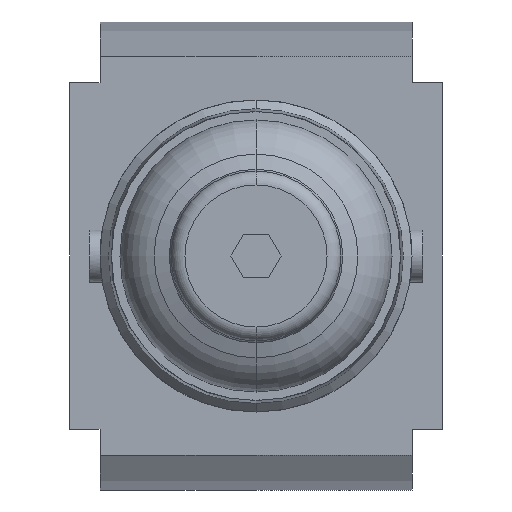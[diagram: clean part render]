
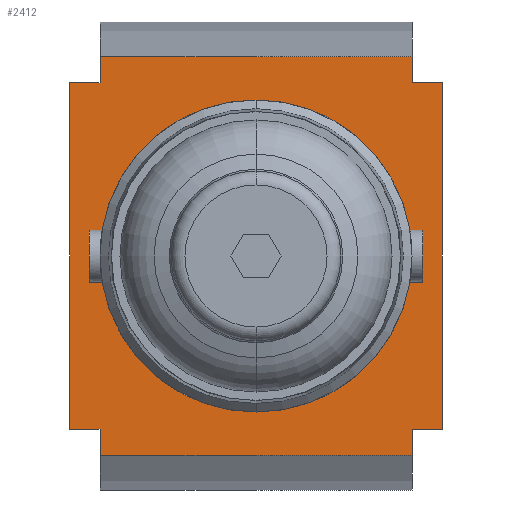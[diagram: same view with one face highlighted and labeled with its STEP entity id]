
A CAD part, front view. The second image highlights one B-rep face of the part: STEP entity #2412.
In plain terms, the highlighted planar face has unit normal (0, -1, 0).
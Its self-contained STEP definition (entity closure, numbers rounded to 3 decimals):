
#30=DIRECTION('',(0.,0.,-1.));
#31=VECTOR('',#30,3.);
#32=CARTESIAN_POINT('',(-18.,-25.,-20.));
#33=LINE('',#32,#31);
#64=DIRECTION('',(0.,0.,-1.));
#65=VECTOR('',#64,3.);
#66=CARTESIAN_POINT('',(-18.,-25.,23.));
#67=LINE('',#66,#65);
#136=DIRECTION('',(0.,0.,-1.));
#137=VECTOR('',#136,3.);
#138=CARTESIAN_POINT('',(18.,-25.,23.));
#139=LINE('',#138,#137);
#170=DIRECTION('',(0.,0.,-1.));
#171=VECTOR('',#170,3.);
#172=CARTESIAN_POINT('',(18.,-25.,-20.));
#173=LINE('',#172,#171);
#203=DIRECTION('',(1.,0.,0.));
#204=VECTOR('',#203,3.5);
#205=CARTESIAN_POINT('',(18.,-25.,20.));
#206=LINE('',#205,#204);
#243=DIRECTION('',(1.,0.,0.));
#244=VECTOR('',#243,3.5);
#245=CARTESIAN_POINT('',(-21.5,-25.,20.));
#246=LINE('',#245,#244);
#514=DIRECTION('',(1.,0.,0.));
#515=VECTOR('',#514,3.5);
#516=CARTESIAN_POINT('',(18.,-25.,-20.));
#517=LINE('',#516,#515);
#580=DIRECTION('',(1.,0.,0.));
#581=VECTOR('',#580,3.5);
#582=CARTESIAN_POINT('',(-21.5,-25.,-20.));
#583=LINE('',#582,#581);
#722=DIRECTION('',(0.,0.,1.));
#723=VECTOR('',#722,40.);
#724=CARTESIAN_POINT('',(21.5,-25.,-20.));
#725=LINE('',#724,#723);
#726=DIRECTION('',(0.,0.,1.));
#727=VECTOR('',#726,40.);
#728=CARTESIAN_POINT('',(-21.5,-25.,-20.));
#729=LINE('',#728,#727);
#730=DIRECTION('',(1.,0.,0.));
#731=VECTOR('',#730,36.);
#732=CARTESIAN_POINT('',(-18.,-25.,23.));
#733=LINE('',#732,#731);
#734=CARTESIAN_POINT('',(0.,-25.,0.));
#735=DIRECTION('',(0.,-1.,0.));
#736=DIRECTION('',(0.866,0.,-0.5));
#737=AXIS2_PLACEMENT_3D('',#734,#735,#736);
#739=DIRECTION('',(1.,0.,0.));
#740=VECTOR('',#739,1.166);
#741=CARTESIAN_POINT('',(14.422,-25.,9.));
#742=LINE('',#741,#740);
#743=CARTESIAN_POINT('',(0.,-25.,0.));
#744=DIRECTION('',(0.,1.,0.));
#745=DIRECTION('',(0.529,0.,0.848));
#746=AXIS2_PLACEMENT_3D('',#743,#744,#745);
#748=DIRECTION('',(0.,0.,-1.));
#749=VECTOR('',#748,1.166);
#750=CARTESIAN_POINT('',(9.,-25.,15.588));
#751=LINE('',#750,#749);
#752=CARTESIAN_POINT('',(0.,-25.,0.));
#753=DIRECTION('',(0.,-1.,0.));
#754=DIRECTION('',(0.5,0.,0.866));
#755=AXIS2_PLACEMENT_3D('',#752,#753,#754);
#757=CARTESIAN_POINT('',(0.,-25.,0.));
#758=DIRECTION('',(0.,-1.,0.));
#759=DIRECTION('',(0.,0.,1.));
#760=AXIS2_PLACEMENT_3D('',#757,#758,#759);
#762=DIRECTION('',(0.,0.,1.));
#763=VECTOR('',#762,1.166);
#764=CARTESIAN_POINT('',(-9.,-25.,14.422));
#765=LINE('',#764,#763);
#766=CARTESIAN_POINT('',(0.,-25.,0.));
#767=DIRECTION('',(0.,1.,0.));
#768=DIRECTION('',(-0.848,0.,0.529));
#769=AXIS2_PLACEMENT_3D('',#766,#767,#768);
#771=DIRECTION('',(1.,0.,0.));
#772=VECTOR('',#771,1.166);
#773=CARTESIAN_POINT('',(-15.588,-25.,9.));
#774=LINE('',#773,#772);
#775=CARTESIAN_POINT('',(0.,-25.,0.));
#776=DIRECTION('',(0.,-1.,0.));
#777=DIRECTION('',(-0.866,0.,0.5));
#778=AXIS2_PLACEMENT_3D('',#775,#776,#777);
#780=DIRECTION('',(-1.,0.,0.));
#781=VECTOR('',#780,1.166);
#782=CARTESIAN_POINT('',(-14.422,-25.,-9.));
#783=LINE('',#782,#781);
#784=CARTESIAN_POINT('',(0.,-25.,0.));
#785=DIRECTION('',(0.,1.,0.));
#786=DIRECTION('',(-0.529,0.,-0.848));
#787=AXIS2_PLACEMENT_3D('',#784,#785,#786);
#789=DIRECTION('',(0.,0.,1.));
#790=VECTOR('',#789,1.166);
#791=CARTESIAN_POINT('',(-9.,-25.,-15.588));
#792=LINE('',#791,#790);
#793=CARTESIAN_POINT('',(0.,-25.,0.));
#794=DIRECTION('',(0.,-1.,0.));
#795=DIRECTION('',(-0.5,0.,-0.866));
#796=AXIS2_PLACEMENT_3D('',#793,#794,#795);
#798=CARTESIAN_POINT('',(0.,-25.,0.));
#799=DIRECTION('',(0.,-1.,0.));
#800=DIRECTION('',(0.,0.,-1.));
#801=AXIS2_PLACEMENT_3D('',#798,#799,#800);
#803=DIRECTION('',(0.,0.,-1.));
#804=VECTOR('',#803,1.166);
#805=CARTESIAN_POINT('',(9.,-25.,-14.422));
#806=LINE('',#805,#804);
#807=CARTESIAN_POINT('',(0.,-25.,0.));
#808=DIRECTION('',(0.,1.,0.));
#809=DIRECTION('',(0.848,0.,-0.529));
#810=AXIS2_PLACEMENT_3D('',#807,#808,#809);
#812=DIRECTION('',(-1.,0.,0.));
#813=VECTOR('',#812,1.166);
#814=CARTESIAN_POINT('',(15.588,-25.,-9.));
#815=LINE('',#814,#813);
#820=DIRECTION('',(1.,0.,0.));
#821=VECTOR('',#820,36.);
#822=CARTESIAN_POINT('',(-18.,-25.,-23.));
#823=LINE('',#822,#821);
#1262=CARTESIAN_POINT('',(-18.,-25.,23.));
#1263=CARTESIAN_POINT('',(18.,-25.,23.));
#1264=VERTEX_POINT('',#1262);
#1265=VERTEX_POINT('',#1263);
#1266=CARTESIAN_POINT('',(-18.,-25.,-23.));
#1267=CARTESIAN_POINT('',(18.,-25.,-23.));
#1268=VERTEX_POINT('',#1266);
#1269=VERTEX_POINT('',#1267);
#1280=CARTESIAN_POINT('',(-21.5,-25.,-20.));
#1281=VERTEX_POINT('',#1280);
#1282=CARTESIAN_POINT('',(21.5,-25.,-20.));
#1284=VERTEX_POINT('',#1282);
#1304=CARTESIAN_POINT('',(-21.5,-25.,20.));
#1305=VERTEX_POINT('',#1304);
#1306=CARTESIAN_POINT('',(21.5,-25.,20.));
#1308=VERTEX_POINT('',#1306);
#1318=CARTESIAN_POINT('',(-18.,-25.,20.));
#1319=VERTEX_POINT('',#1318);
#1320=CARTESIAN_POINT('',(18.,-25.,20.));
#1321=VERTEX_POINT('',#1320);
#1322=CARTESIAN_POINT('',(-18.,-25.,-20.));
#1323=VERTEX_POINT('',#1322);
#1324=CARTESIAN_POINT('',(18.,-25.,-20.));
#1325=VERTEX_POINT('',#1324);
#1586=CARTESIAN_POINT('',(0.,-25.,18.));
#1587=VERTEX_POINT('',#1586);
#1588=CARTESIAN_POINT('',(0.,-25.,-18.));
#1589=VERTEX_POINT('',#1588);
#1590=CARTESIAN_POINT('',(-9.,-25.,-14.422));
#1591=CARTESIAN_POINT('',(-14.422,-25.,-9.));
#1592=VERTEX_POINT('',#1590);
#1593=VERTEX_POINT('',#1591);
#1594=CARTESIAN_POINT('',(-14.422,-25.,9.));
#1595=CARTESIAN_POINT('',(-9.,-25.,14.422));
#1596=VERTEX_POINT('',#1594);
#1597=VERTEX_POINT('',#1595);
#1598=CARTESIAN_POINT('',(14.422,-25.,-9.));
#1599=CARTESIAN_POINT('',(9.,-25.,-14.422));
#1600=VERTEX_POINT('',#1598);
#1601=VERTEX_POINT('',#1599);
#1602=CARTESIAN_POINT('',(9.,-25.,14.422));
#1603=CARTESIAN_POINT('',(14.422,-25.,9.));
#1604=VERTEX_POINT('',#1602);
#1605=VERTEX_POINT('',#1603);
#1623=CARTESIAN_POINT('',(-9.,-25.,-15.588));
#1625=VERTEX_POINT('',#1623);
#1627=CARTESIAN_POINT('',(-15.588,-25.,-9.));
#1629=VERTEX_POINT('',#1627);
#1631=CARTESIAN_POINT('',(-9.,-25.,15.588));
#1633=VERTEX_POINT('',#1631);
#1635=CARTESIAN_POINT('',(-15.588,-25.,9.));
#1637=VERTEX_POINT('',#1635);
#1639=CARTESIAN_POINT('',(9.,-25.,-15.588));
#1641=VERTEX_POINT('',#1639);
#1643=CARTESIAN_POINT('',(15.588,-25.,-9.));
#1645=VERTEX_POINT('',#1643);
#1647=CARTESIAN_POINT('',(15.588,-25.,9.));
#1649=VERTEX_POINT('',#1647);
#1651=CARTESIAN_POINT('',(9.,-25.,15.588));
#1653=VERTEX_POINT('',#1651);
#2352=CARTESIAN_POINT('',(-18.,-25.,23.));
#2353=DIRECTION('',(0.,-1.,0.));
#2354=DIRECTION('',(0.,0.,-1.));
#2355=AXIS2_PLACEMENT_3D('',#2352,#2353,#2354);
#2356=PLANE('',#2355);
#2357=ORIENTED_EDGE('',*,*,#1797,.T.);
#2358=ORIENTED_EDGE('',*,*,#1849,.T.);
#2359=ORIENTED_EDGE('',*,*,#2345,.F.);
#2360=ORIENTED_EDGE('',*,*,#2155,.F.);
#2361=ORIENTED_EDGE('',*,*,#1820,.T.);
#2363=ORIENTED_EDGE('',*,*,#2362,.F.);
#2364=ORIENTED_EDGE('',*,*,#1673,.F.);
#2365=ORIENTED_EDGE('',*,*,#2208,.F.);
#2367=ORIENTED_EDGE('',*,*,#2366,.T.);
#2368=ORIENTED_EDGE('',*,*,#1895,.T.);
#2369=ORIENTED_EDGE('',*,*,#1697,.F.);
#2371=ORIENTED_EDGE('',*,*,#2370,.T.);
#2372=EDGE_LOOP('',(#2357,#2358,#2359,#2360,#2361,#2363,#2364,#2365,#2367,#2368,
#2369,#2371));
#2373=FACE_OUTER_BOUND('',#2372,.F.);
#2375=ORIENTED_EDGE('',*,*,#2374,.T.);
#2377=ORIENTED_EDGE('',*,*,#2376,.F.);
#2379=ORIENTED_EDGE('',*,*,#2378,.F.);
#2381=ORIENTED_EDGE('',*,*,#2380,.F.);
#2383=ORIENTED_EDGE('',*,*,#2382,.T.);
#2385=ORIENTED_EDGE('',*,*,#2384,.T.);
#2387=ORIENTED_EDGE('',*,*,#2386,.F.);
#2389=ORIENTED_EDGE('',*,*,#2388,.F.);
#2391=ORIENTED_EDGE('',*,*,#2390,.F.);
#2393=ORIENTED_EDGE('',*,*,#2392,.T.);
#2395=ORIENTED_EDGE('',*,*,#2394,.F.);
#2397=ORIENTED_EDGE('',*,*,#2396,.F.);
#2399=ORIENTED_EDGE('',*,*,#2398,.F.);
#2401=ORIENTED_EDGE('',*,*,#2400,.T.);
#2403=ORIENTED_EDGE('',*,*,#2402,.T.);
#2405=ORIENTED_EDGE('',*,*,#2404,.F.);
#2407=ORIENTED_EDGE('',*,*,#2406,.F.);
#2409=ORIENTED_EDGE('',*,*,#2408,.F.);
#2410=EDGE_LOOP('',(#2375,#2377,#2379,#2381,#2383,#2385,#2387,#2389,#2391,#2393,
#2395,#2397,#2399,#2401,#2403,#2405,#2407,#2409));
#2411=FACE_BOUND('',#2410,.F.);
#2412=ADVANCED_FACE('',(#2373,#2411),#2356,.T.);
#738=CIRCLE('',#737,18.);
#747=CIRCLE('',#746,17.);
#756=CIRCLE('',#755,18.);
#761=CIRCLE('',#760,18.);
#770=CIRCLE('',#769,17.);
#779=CIRCLE('',#778,18.);
#788=CIRCLE('',#787,17.);
#797=CIRCLE('',#796,18.);
#802=CIRCLE('',#801,18.);
#811=CIRCLE('',#810,17.);
#1673=EDGE_CURVE('',#1323,#1268,#33,.T.);
#1697=EDGE_CURVE('',#1264,#1319,#67,.T.);
#1797=EDGE_CURVE('',#1265,#1321,#139,.T.);
#1820=EDGE_CURVE('',#1325,#1269,#173,.T.);
#1849=EDGE_CURVE('',#1321,#1308,#206,.T.);
#1895=EDGE_CURVE('',#1305,#1319,#246,.T.);
#2155=EDGE_CURVE('',#1325,#1284,#517,.T.);
#2208=EDGE_CURVE('',#1281,#1323,#583,.T.);
#2345=EDGE_CURVE('',#1284,#1308,#725,.T.);
#2362=EDGE_CURVE('',#1268,#1269,#823,.T.);
#2366=EDGE_CURVE('',#1281,#1305,#729,.T.);
#2370=EDGE_CURVE('',#1264,#1265,#733,.T.);
#2374=EDGE_CURVE('',#1645,#1649,#738,.T.);
#2376=EDGE_CURVE('',#1605,#1649,#742,.T.);
#2378=EDGE_CURVE('',#1604,#1605,#747,.T.);
#2380=EDGE_CURVE('',#1653,#1604,#751,.T.);
#2382=EDGE_CURVE('',#1653,#1587,#756,.T.);
#2384=EDGE_CURVE('',#1587,#1633,#761,.T.);
#2386=EDGE_CURVE('',#1597,#1633,#765,.T.);
#2388=EDGE_CURVE('',#1596,#1597,#770,.T.);
#2390=EDGE_CURVE('',#1637,#1596,#774,.T.);
#2392=EDGE_CURVE('',#1637,#1629,#779,.T.);
#2394=EDGE_CURVE('',#1593,#1629,#783,.T.);
#2396=EDGE_CURVE('',#1592,#1593,#788,.T.);
#2398=EDGE_CURVE('',#1625,#1592,#792,.T.);
#2400=EDGE_CURVE('',#1625,#1589,#797,.T.);
#2402=EDGE_CURVE('',#1589,#1641,#802,.T.);
#2404=EDGE_CURVE('',#1601,#1641,#806,.T.);
#2406=EDGE_CURVE('',#1600,#1601,#811,.T.);
#2408=EDGE_CURVE('',#1645,#1600,#815,.T.);
